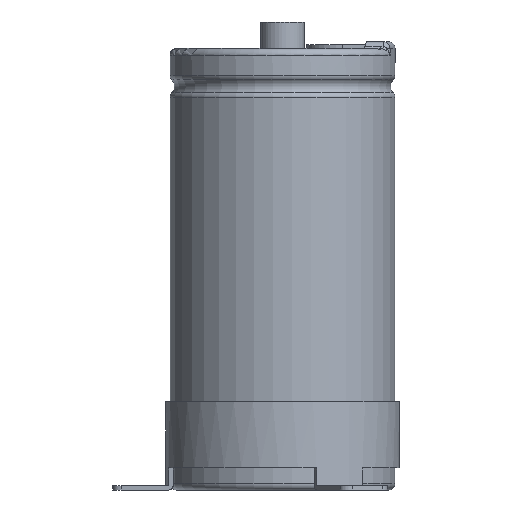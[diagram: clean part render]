
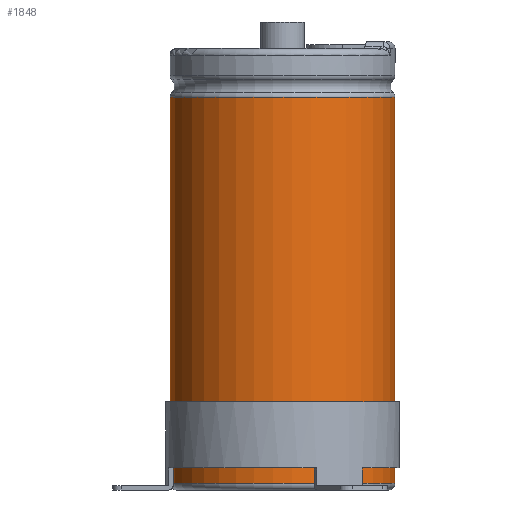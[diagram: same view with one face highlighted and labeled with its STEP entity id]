
A CAD part, front view. The second image highlights one B-rep face of the part: STEP entity #1848.
In plain terms, the highlighted cylindrical face has radius 25.5 mm (diameter 51 mm), a partial arc.
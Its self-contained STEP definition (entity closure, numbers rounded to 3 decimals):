
#370=LINE('',#9285,#608);
#371=LINE('',#9289,#609);
#608=VECTOR('',#6925,1.);
#609=VECTOR('',#6928,1.);
#1457=FACE_OUTER_BOUND('',#2362,.T.);
#1848=ADVANCED_FACE('',(#1457),#1998,.T.);
#1998=CYLINDRICAL_SURFACE('',#5769,25.5);
#2362=EDGE_LOOP('',(#3435,#3436,#3437,#3438));
#3435=ORIENTED_EDGE('',*,*,#4849,.T.);
#3436=ORIENTED_EDGE('',*,*,#4850,.T.);
#3437=ORIENTED_EDGE('',*,*,#4851,.F.);
#3438=ORIENTED_EDGE('',*,*,#4852,.F.);
#4222=VERTEX_POINT('',#9278);
#4224=VERTEX_POINT('',#9282);
#4225=VERTEX_POINT('',#9286);
#4226=VERTEX_POINT('',#9288);
#4849=EDGE_CURVE('',#4222,#4224,#5258,.T.);
#4850=EDGE_CURVE('',#4224,#4225,#370,.T.);
#4851=EDGE_CURVE('',#4226,#4225,#5259,.T.);
#4852=EDGE_CURVE('',#4222,#4226,#371,.T.);
#5258=CIRCLE('',#5766,25.5);
#5259=CIRCLE('',#5768,25.5);
#5766=AXIS2_PLACEMENT_3D('',#9283,#6921,#6922);
#5768=AXIS2_PLACEMENT_3D('',#9287,#6926,#6927);
#5769=AXIS2_PLACEMENT_3D('',#9290,#6929,#6930);
#6921=DIRECTION('',(0.,0.,-1.));
#6922=DIRECTION('',(0.,1.,0.));
#6925=DIRECTION('',(0.,0.,-1.));
#6926=DIRECTION('',(0.,0.,-1.));
#6927=DIRECTION('',(0.,1.,0.));
#6928=DIRECTION('',(0.,0.,-1.));
#6929=DIRECTION('',(0.,0.,-1.));
#6930=DIRECTION('',(0.,1.,0.));
#9278=CARTESIAN_POINT('',(3.989,25.186,88.9));
#9282=CARTESIAN_POINT('',(-3.989,25.186,88.9));
#9283=CARTESIAN_POINT('',(0.,0.,88.9));
#9285=CARTESIAN_POINT('',(-3.989,25.186,88.9));
#9286=CARTESIAN_POINT('',(-3.989,25.186,1.5));
#9287=CARTESIAN_POINT('',(0.,0.,1.5));
#9288=CARTESIAN_POINT('',(3.989,25.186,1.5));
#9289=CARTESIAN_POINT('',(3.989,25.186,88.9));
#9290=CARTESIAN_POINT('',(0.,0.,0.));
